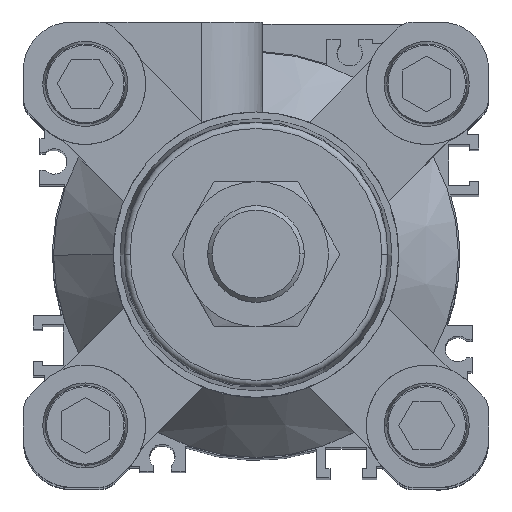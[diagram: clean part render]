
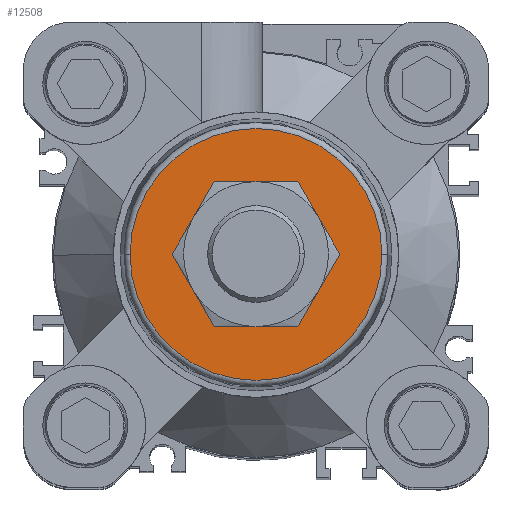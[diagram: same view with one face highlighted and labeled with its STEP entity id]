
A CAD part, top view. The second image highlights one B-rep face of the part: STEP entity #12508.
In plain terms, the highlighted planar face has unit normal (0, 0, 1).
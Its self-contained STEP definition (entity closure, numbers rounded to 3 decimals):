
#123 = DIRECTION ( 'NONE',  ( 0., 0., 1. ) ) ;
#458 = DIRECTION ( 'NONE',  ( 1., 0., 0. ) ) ;
#920 = DIRECTION ( 'NONE',  ( 0., 0., 1. ) ) ;
#1326 = EDGE_LOOP ( 'NONE', ( #8670, #7568 ) ) ;
#1839 = CARTESIAN_POINT ( 'NONE',  ( 0., 0., 62.6 ) ) ;
#1866 = EDGE_CURVE ( 'NONE', #8641, #5555, #13349, .T. ) ;
#2281 = EDGE_CURVE ( 'NONE', #5555, #8641, #11988, .T. ) ;
#2495 = DIRECTION ( 'NONE',  ( 0., 0., 1. ) ) ;
#2800 = DIRECTION ( 'NONE',  ( 0., 0., 1. ) ) ;
#3005 = CARTESIAN_POINT ( 'NONE',  ( -10., 0., 62.6 ) ) ;
#3521 = CARTESIAN_POINT ( 'NONE',  ( 10., 0., 62.6 ) ) ;
#4036 = AXIS2_PLACEMENT_3D ( 'NONE', #11424, #2800, #458 ) ;
#4040 = DIRECTION ( 'NONE',  ( 1., 0., 0. ) ) ;
#4466 = DIRECTION ( 'NONE',  ( 1., 0., 0. ) ) ;
#4576 = ORIENTED_EDGE ( 'NONE', *, *, #12049, .T. ) ;
#5555 = VERTEX_POINT ( 'NONE', #3005 ) ;
#5804 = CARTESIAN_POINT ( 'NONE',  ( 0., 0., 62.6 ) ) ;
#7284 = VERTEX_POINT ( 'NONE', #12259 ) ;
#7507 = AXIS2_PLACEMENT_3D ( 'NONE', #9885, #123, #4466 ) ;
#7568 = ORIENTED_EDGE ( 'NONE', *, *, #2281, .F. ) ;
#7781 = VERTEX_POINT ( 'NONE', #9246 ) ;
#7802 = FACE_OUTER_BOUND ( 'NONE', #7891, .T. ) ;
#7891 = EDGE_LOOP ( 'NONE', ( #10072, #4576 ) ) ;
#7958 = CIRCLE ( 'NONE', #7507, 20.836 ) ;
#7983 = CARTESIAN_POINT ( 'NONE',  ( 0., 0., 62.6 ) ) ;
#8010 = DIRECTION ( 'NONE',  ( 1., 0., 0. ) ) ;
#8170 = CIRCLE ( 'NONE', #12952, 20.836 ) ;
#8641 = VERTEX_POINT ( 'NONE', #3521 ) ;
#8670 = ORIENTED_EDGE ( 'NONE', *, *, #1866, .F. ) ;
#9011 = DIRECTION ( 'NONE',  ( 0., 0., 1. ) ) ;
#9246 = CARTESIAN_POINT ( 'NONE',  ( -20.836, 0., 62.6 ) ) ;
#9885 = CARTESIAN_POINT ( 'NONE',  ( 0., 0., 62.6 ) ) ;
#10007 = FACE_BOUND ( 'NONE', #1326, .T. ) ;
#10072 = ORIENTED_EDGE ( 'NONE', *, *, #11809, .T. ) ;
#10613 = DIRECTION ( 'NONE',  ( 1., 0., 0. ) ) ;
#11156 = AXIS2_PLACEMENT_3D ( 'NONE', #5804, #9011, #8010 ) ;
#11424 = CARTESIAN_POINT ( 'NONE',  ( 0., 0., 62.6 ) ) ;
#11809 = EDGE_CURVE ( 'NONE', #7284, #7781, #8170, .T. ) ;
#11978 = AXIS2_PLACEMENT_3D ( 'NONE', #7983, #2495, #4040 ) ;
#11988 = CIRCLE ( 'NONE', #4036, 10. ) ;
#12049 = EDGE_CURVE ( 'NONE', #7781, #7284, #7958, .T. ) ;
#12259 = CARTESIAN_POINT ( 'NONE',  ( 20.836, 0., 62.6 ) ) ;
#12288 = PLANE ( 'NONE',  #11156 ) ;
#12508 = ADVANCED_FACE ( 'NONE', ( #10007, #7802 ), #12288, .T. ) ;
#12952 = AXIS2_PLACEMENT_3D ( 'NONE', #1839, #920, #10613 ) ;
#13349 = CIRCLE ( 'NONE', #11978, 10. ) ;
